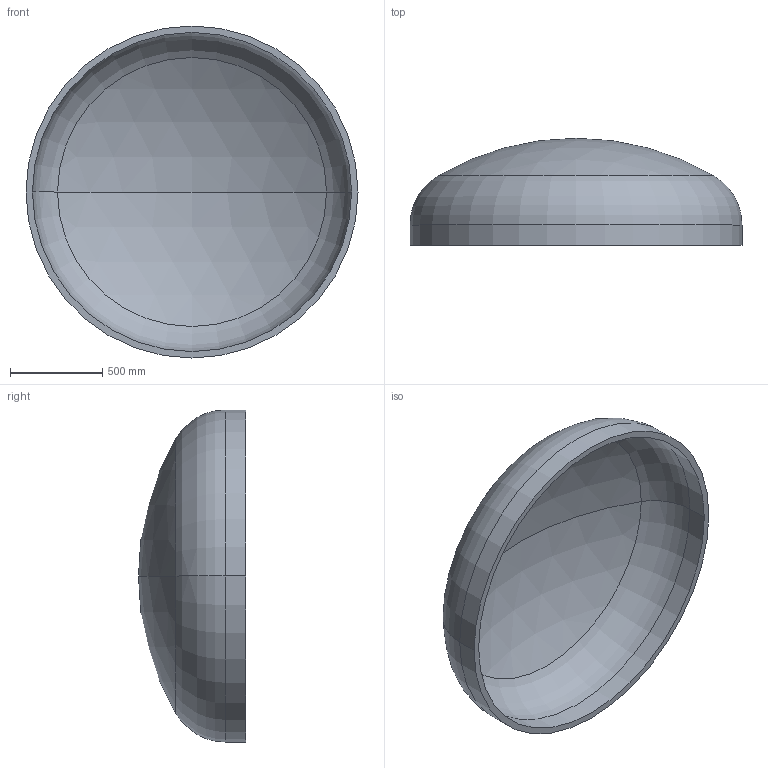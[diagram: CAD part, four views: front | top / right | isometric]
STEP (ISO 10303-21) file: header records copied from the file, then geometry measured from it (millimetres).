
FILE_DESCRIPTION (( 'STEP AP203' ), '1' );
FILE_NAME ('DIN 28013 Korbbogenform_-_Boden DIN 28013 - 1800 x 110 - I - s=35.step', '2016-07-01T12:27:39', ( '' ), ( '' ), 'SwSTEP 2.0', 'SolidWorks 2013', '' );
FILE_SCHEMA (( 'CONFIG_CONTROL_DESIGN' ));
Length unit declared in the file: millimetre
Products named in the file (1): DIN 28013 Korbbogenform_-_Boden DIN 28013 - 1800 x 110 - I - s=35
Bounding box: 1800 x 580.45 x 1800 mm (x, y, z)
Volume: 141392373.9 mm3; surface area: 8276199.1 mm2
Topology: 1 solids, 1 shells, 13 faces, 24 edges, 14 vertices
Faces by surface type: torus 4, cylinder 4, sphere 4, plane 1
Entity records: 407 total; most frequent: DIRECTION 72, CARTESIAN_POINT 52, ORIENTED_EDGE 48, AXIS2_PLACEMENT_3D 34, EDGE_CURVE 24, CIRCLE 20, VERTEX_POINT 14, EDGE_LOOP 14
